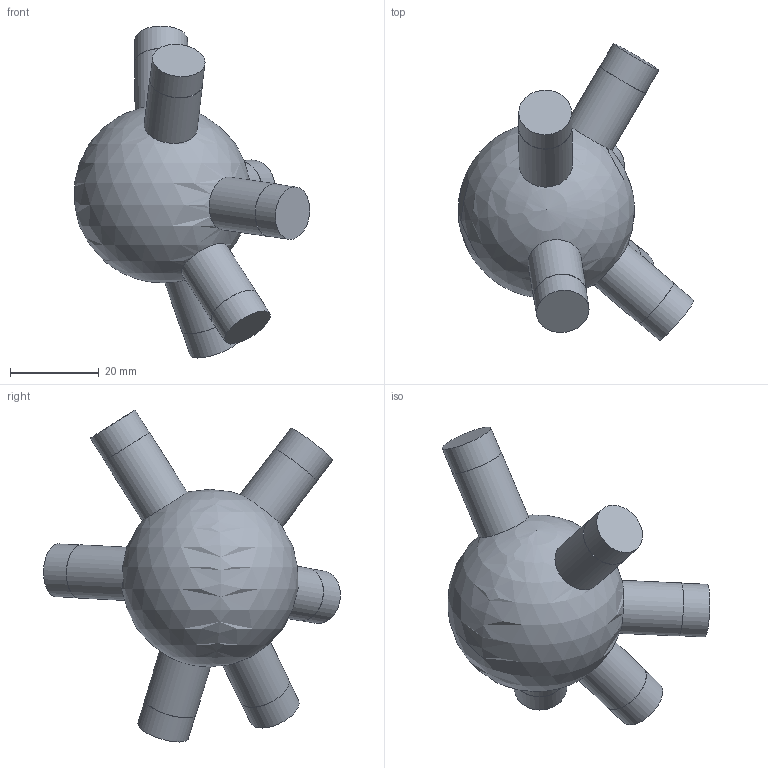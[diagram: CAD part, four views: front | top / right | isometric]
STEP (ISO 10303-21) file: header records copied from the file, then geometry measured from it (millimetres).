
FILE_DESCRIPTION(('Open CASCADE Model'),'2;1');
FILE_NAME('Open CASCADE Shape Model','2026-10-21T12:47:57',('Author'),( 'Open CASCADE'),'Open CASCADE STEP processor 7.9','Open CASCADE 7.9' ,'Unknown');
FILE_SCHEMA(('AUTOMOTIVE_DESIGN { 1 0 10303 214 1 1 1 1 }'));
Length unit declared in the file: millimetre
Products named in the file (1): Open CASCADE STEP translator 7.9 94
Bounding box: 53.07 x 66.89 x 74.81 mm (x, y, z)
Volume: 46672.1 mm3; surface area: 9514 mm2
Topology: 1 solids, 1 shells, 25 faces, 41 edges, 28 vertices
Faces by surface type: cylinder 12, plane 12, sphere 1
Full cylindrical faces by diameter (mm): 11.9 x6, 12 x6
Entity records: 1571 total; most frequent: CARTESIAN_POINT 637, DIRECTION 192, ORIENTED_EDGE 80, PCURVE 80, DEFINITIONAL_REPRESENTATION 80, LINE 66, VECTOR 66, AXIS2_PLACEMENT_3D 54
